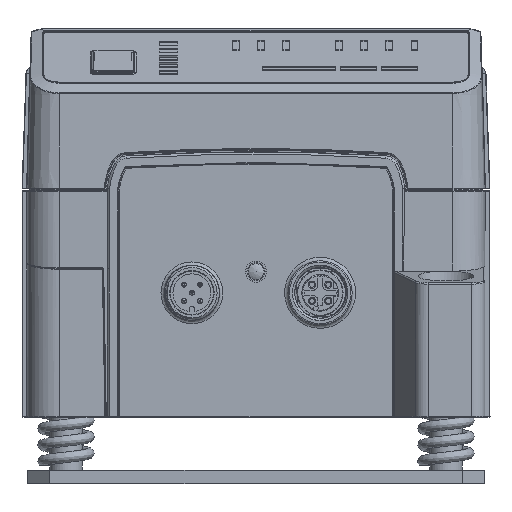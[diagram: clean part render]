
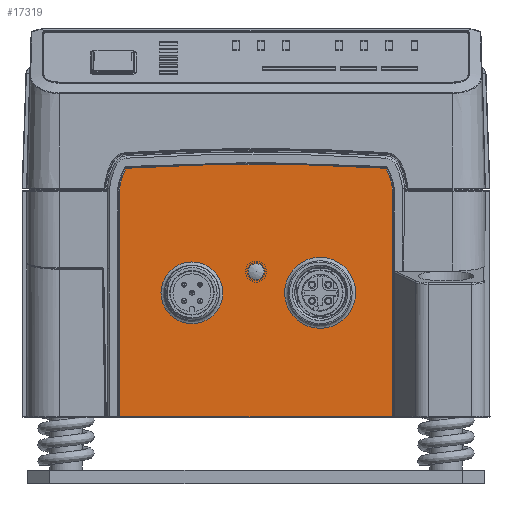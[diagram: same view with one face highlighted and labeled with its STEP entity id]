
A CAD part, left-side view. The second image highlights one B-rep face of the part: STEP entity #17319.
In plain terms, the highlighted planar face has unit normal (-1, 0, 0).
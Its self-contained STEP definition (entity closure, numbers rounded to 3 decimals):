
#17319=ADVANCED_FACE('',(#26527,#26528,#26529,#26530),#18822,.T.);
#18822=PLANE('',#57004);
#21866=LINE('',#90946,#25351);
#21867=LINE('',#90950,#25352);
#21868=LINE('',#90954,#25353);
#25351=VECTOR('',#67100,1.);
#25352=VECTOR('',#67103,1.);
#25353=VECTOR('',#67106,1.);
#26527=FACE_BOUND('',#28670,.T.);
#26528=FACE_BOUND('',#28671,.T.);
#26529=FACE_BOUND('',#28672,.T.);
#26530=FACE_BOUND('',#28673,.T.);
#28670=EDGE_LOOP('',(#38664));
#28671=EDGE_LOOP('',(#38665,#38666,#38667,#38668,#38669,#38670,#38671,#38672,
#38673,#38674));
#28672=EDGE_LOOP('',(#38675));
#28673=EDGE_LOOP('',(#38676));
#38664=ORIENTED_EDGE('',*,*,#50775,.T.);
#38665=ORIENTED_EDGE('',*,*,#50781,.T.);
#38666=ORIENTED_EDGE('',*,*,#50782,.T.);
#38667=ORIENTED_EDGE('',*,*,#50783,.T.);
#38668=ORIENTED_EDGE('',*,*,#50784,.T.);
#38669=ORIENTED_EDGE('',*,*,#50785,.T.);
#38670=ORIENTED_EDGE('',*,*,#50786,.T.);
#38671=ORIENTED_EDGE('',*,*,#50787,.T.);
#38672=ORIENTED_EDGE('',*,*,#50788,.T.);
#38673=ORIENTED_EDGE('',*,*,#50789,.T.);
#38674=ORIENTED_EDGE('',*,*,#50790,.T.);
#38675=ORIENTED_EDGE('',*,*,#50774,.T.);
#38676=ORIENTED_EDGE('',*,*,#50791,.T.);
#45087=VERTEX_POINT('',#90923);
#45088=VERTEX_POINT('',#90926);
#45093=VERTEX_POINT('',#90940);
#45094=VERTEX_POINT('',#90941);
#45095=VERTEX_POINT('',#90943);
#45096=VERTEX_POINT('',#90945);
#45097=VERTEX_POINT('',#90947);
#45098=VERTEX_POINT('',#90949);
#45099=VERTEX_POINT('',#90951);
#45100=VERTEX_POINT('',#90953);
#45101=VERTEX_POINT('',#90955);
#45102=VERTEX_POINT('',#90957);
#45103=VERTEX_POINT('',#90960);
#50774=EDGE_CURVE('',#45087,#45087,#53639,.T.);
#50775=EDGE_CURVE('',#45088,#45088,#53640,.T.);
#50781=EDGE_CURVE('',#45093,#45094,#53645,.T.);
#50782=EDGE_CURVE('',#45094,#45095,#53646,.T.);
#50783=EDGE_CURVE('',#45095,#45096,#53647,.T.);
#50784=EDGE_CURVE('',#45096,#45097,#21866,.T.);
#50785=EDGE_CURVE('',#45097,#45098,#53648,.T.);
#50786=EDGE_CURVE('',#45098,#45099,#21867,.T.);
#50787=EDGE_CURVE('',#45099,#45100,#53649,.T.);
#50788=EDGE_CURVE('',#45100,#45101,#21868,.T.);
#50789=EDGE_CURVE('',#45101,#45102,#53650,.T.);
#50790=EDGE_CURVE('',#45102,#45093,#53651,.T.);
#50791=EDGE_CURVE('',#45103,#45103,#53652,.T.);
#53639=CIRCLE('',#56986,7.75);
#53640=CIRCLE('',#56988,6.75);
#53645=CIRCLE('',#56996,447.3);
#53646=CIRCLE('',#56997,0.3);
#53647=CIRCLE('',#56998,12.3);
#53648=CIRCLE('',#56999,0.3);
#53649=CIRCLE('',#57000,0.3);
#53650=CIRCLE('',#57001,12.3);
#53651=CIRCLE('',#57002,0.3);
#53652=CIRCLE('',#57003,1.75);
#56986=AXIS2_PLACEMENT_3D('',#90922,#67073,#67074);
#56988=AXIS2_PLACEMENT_3D('',#90925,#67077,#67078);
#56996=AXIS2_PLACEMENT_3D('',#90939,#67094,#67095);
#56997=AXIS2_PLACEMENT_3D('',#90942,#67096,#67097);
#56998=AXIS2_PLACEMENT_3D('',#90944,#67098,#67099);
#56999=AXIS2_PLACEMENT_3D('',#90948,#67101,#67102);
#57000=AXIS2_PLACEMENT_3D('',#90952,#67104,#67105);
#57001=AXIS2_PLACEMENT_3D('',#90956,#67107,#67108);
#57002=AXIS2_PLACEMENT_3D('',#90958,#67109,#67110);
#57003=AXIS2_PLACEMENT_3D('',#90959,#67111,#67112);
#57004=AXIS2_PLACEMENT_3D('',#90961,#67113,#67114);
#67073=DIRECTION('',(1.,0.,0.));
#67074=DIRECTION('',(0.,-1.,0.));
#67077=DIRECTION('',(1.,0.,0.));
#67078=DIRECTION('',(0.,-1.,0.));
#67094=DIRECTION('',(-1.,0.,0.));
#67095=DIRECTION('',(0.,-1.,0.));
#67096=DIRECTION('',(-1.,0.,0.));
#67097=DIRECTION('',(0.,-1.,0.));
#67098=DIRECTION('',(-1.,0.,0.));
#67099=DIRECTION('',(0.,-1.,0.));
#67100=DIRECTION('',(0.,0.,-1.));
#67101=DIRECTION('',(-1.,0.,0.));
#67102=DIRECTION('',(0.,-1.,0.));
#67103=DIRECTION('',(0.,-1.,0.));
#67104=DIRECTION('',(-1.,0.,0.));
#67105=DIRECTION('',(0.,-1.,0.));
#67106=DIRECTION('',(0.,0.,1.));
#67107=DIRECTION('',(-1.,0.,0.));
#67108=DIRECTION('',(0.,-1.,0.));
#67109=DIRECTION('',(-1.,0.,0.));
#67110=DIRECTION('',(0.,-1.,0.));
#67111=DIRECTION('',(1.,0.,0.));
#67112=DIRECTION('',(0.,0.,-1.));
#67113=DIRECTION('',(-1.,0.,0.));
#67114=DIRECTION('',(0.,-1.,0.));
#90922=CARTESIAN_POINT('',(-75.732,19.943,1.858));
#90923=CARTESIAN_POINT('',(-75.731,12.193,1.858));
#90925=CARTESIAN_POINT('',(-75.733,47.943,1.857));
#90926=CARTESIAN_POINT('',(-75.732,41.193,1.858));
#90939=CARTESIAN_POINT('',(-75.732,33.94,-417.344));
#90940=CARTESIAN_POINT('',(-75.731,5.727,29.065));
#90941=CARTESIAN_POINT('',(-75.733,62.16,29.064));
#90942=CARTESIAN_POINT('',(-75.733,62.141,28.765));
#90943=CARTESIAN_POINT('',(-75.733,62.407,28.904));
#90944=CARTESIAN_POINT('',(-75.733,51.516,23.188));
#90945=CARTESIAN_POINT('',(-75.733,63.744,24.518));
#90946=CARTESIAN_POINT('',(-75.733,63.744,24.518));
#90947=CARTESIAN_POINT('',(-75.733,63.743,-25.043));
#90948=CARTESIAN_POINT('',(-75.733,63.443,-25.043));
#90949=CARTESIAN_POINT('',(-75.733,63.443,-25.343));
#90950=CARTESIAN_POINT('',(-75.733,63.743,-25.343));
#90951=CARTESIAN_POINT('',(-75.731,4.443,-25.342));
#90952=CARTESIAN_POINT('',(-75.731,4.443,-25.042));
#90953=CARTESIAN_POINT('',(-75.731,4.143,-25.042));
#90954=CARTESIAN_POINT('',(-75.731,4.143,-25.342));
#90955=CARTESIAN_POINT('',(-75.731,4.144,24.519));
#90956=CARTESIAN_POINT('',(-75.731,16.371,23.188));
#90957=CARTESIAN_POINT('',(-75.731,5.481,28.905));
#90958=CARTESIAN_POINT('',(-75.731,5.746,28.765));
#90959=CARTESIAN_POINT('',(-75.732,33.943,6.478));
#90960=CARTESIAN_POINT('',(-75.732,33.943,4.728));
#90961=CARTESIAN_POINT('',(-75.731,16.371,23.188));
